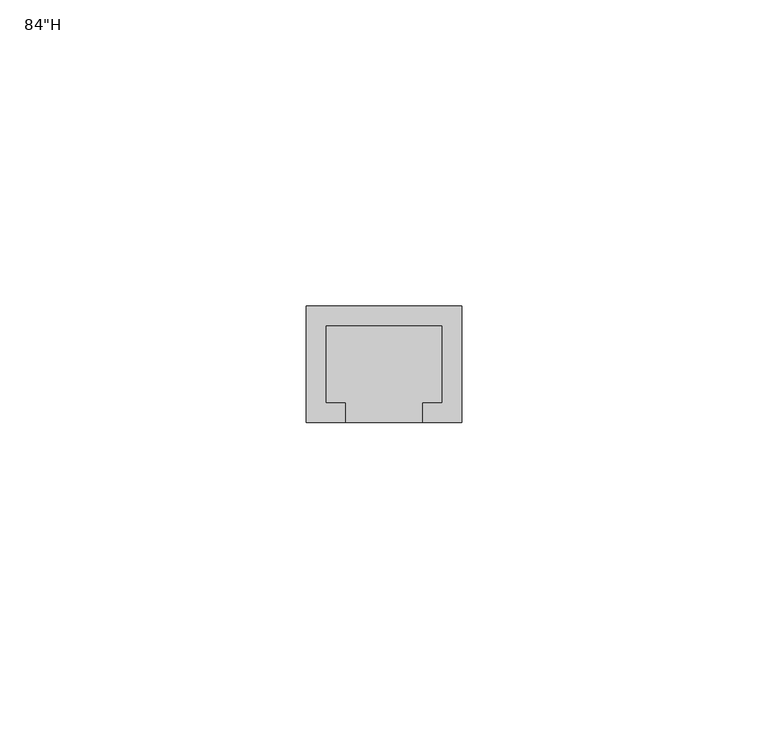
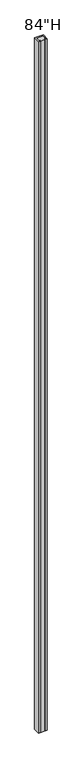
"""IFC4 building model written with IfcOpenShell, lengths in millimetres: furniture geometry."""

from ifc_helpers import new_model, si_unit, frame, origin, place, context, project, spatial, polyline, outline, extrude, source, transform, mapped, element, save


def furniture_ea425779(model_context):
    return source(origin(), model_context, "Body", "SweptSolid", [
        extrude(outline(polyline([(-6.3500004, -19.05), (-12.7000004, -19.05), (-12.7000004, 0.0), (12.7000004, 0.0), (12.7000004, -19.05), (6.3500004, -19.05), (6.3500004, -15.8685185), (9.5250004, -15.8685185), (9.5250004, -3.1685185), (-9.5250004, -3.1685185), (-9.5250004, -15.8685185), (-6.3500004, -15.8685185), (-6.3500004, -19.05)])), frame((0.0, 0.0, 101.6), z_axis=(0.0, 0.0, 1.0), x_axis=(1.0, 0.0, 0.0)), (0.0, 0.0, 1.0), 2133.6),
        extrude(outline(polyline([(12.7000004, 0.0), (12.7000004, -19.05), (-12.7000004, -19.05), (-12.7000004, 0.0), (12.7000004, 0.0)])), frame((0.0, 0.0, 101.6), z_axis=(0.0, 0.0, 1.0), x_axis=(1.0, 0.0, 0.0)), (0.0, 0.0, 1.0), 2133.6),
    ])


if __name__ == "__main__":
    model = new_model("IFC4")
    model_context = context("Model", 3, world=origin())
    ifc_project = project(units=[si_unit("LENGTHUNIT", "METRE", prefix="MILLI")], contexts=[model_context])
    site = spatial("IfcSite", under=ifc_project)
    building = spatial("IfcBuilding", under=site)
    placement = place(None, origin())
    furniture_shape = furniture_ea425779(model_context)
    element("IfcFurniture", 1, ObjectType="HermanMiller_ActionOffice_AO213_WallStrip : 84\"H", at=placement, inside=building, context=model_context, shape_type="MappedRepresentation", body=[
        mapped(furniture_shape, transform((0.0, 0.0, 0.0), x_axis=(1.0, 0.0, 0.0), y_axis=(0.0, 1.0, 0.0), z_axis=(0.0, 0.0, 1.0))),
    ])
    save(model, "model.ifc")
